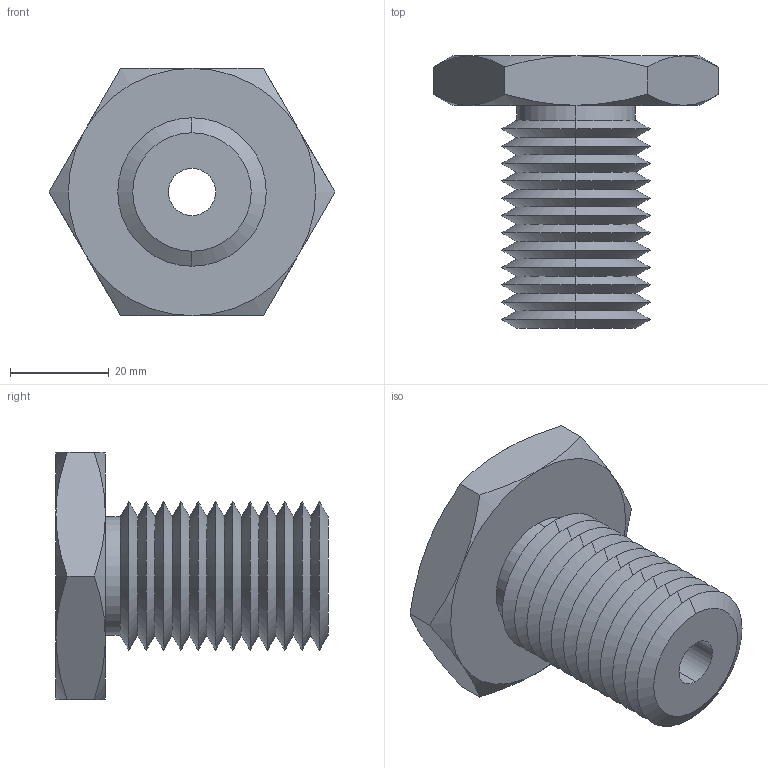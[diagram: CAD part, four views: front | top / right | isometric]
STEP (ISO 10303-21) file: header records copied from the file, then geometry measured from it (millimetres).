
FILE_DESCRIPTION (( 'STEP AP203' ), '1' );
FILE_NAME ('63302.W0030_0,37 UNC-16.step', '2013-12-08T11:07:12', ( 'User' ), ( '' ), 'SwSTEP 2.0', 'SolidWorks 2009', '' );
FILE_SCHEMA (( 'CONFIG_CONTROL_DESIGN' ));
Length unit declared in the file: millimetre
Products named in the file (1): 63302.W0030_0,37 UNC-16
Bounding box: 57.73 x 55 x 50 mm (x, y, z)
Volume: 42857.1 mm3; surface area: 14681.2 mm2
Topology: 1 solids, 1 shells, 75 faces, 154 edges, 82 vertices
Faces by surface type: cone 62, plane 9, cylinder 4
Entity records: 2139 total; most frequent: CARTESIAN_POINT 496, DIRECTION 352, ORIENTED_EDGE 308, EDGE_CURVE 154, AXIS2_PLACEMENT_3D 146, VERTEX_POINT 82, EDGE_LOOP 78, ADVANCED_FACE 75
